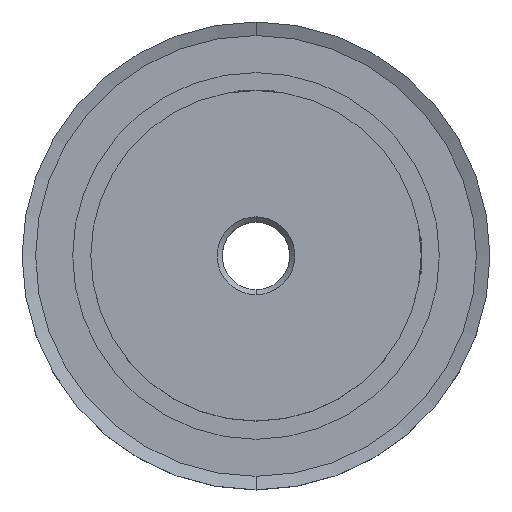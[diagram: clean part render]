
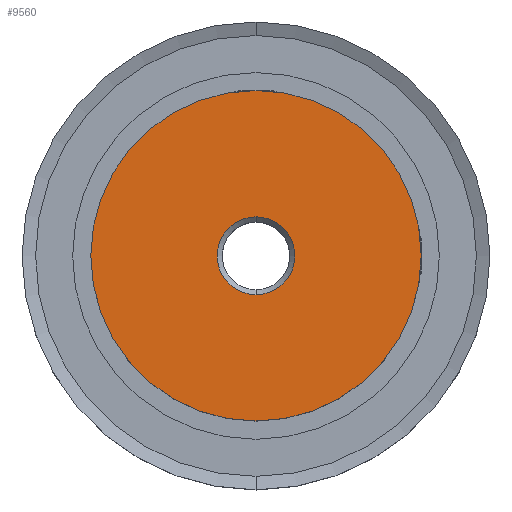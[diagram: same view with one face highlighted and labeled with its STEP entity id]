
A CAD part, top view. The second image highlights one B-rep face of the part: STEP entity #9560.
In plain terms, the highlighted planar face has unit normal (0, 0, 1).
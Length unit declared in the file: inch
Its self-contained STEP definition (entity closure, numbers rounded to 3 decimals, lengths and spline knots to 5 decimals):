
#1=CARTESIAN_POINT('',(0.,0.,0.32813));
#2=DIRECTION('',(0.,0.,1.));
#3=DIRECTION('',(0.,1.,0.));
#4=AXIS2_PLACEMENT_3D('',#1,#2,#3);
#6=CARTESIAN_POINT('',(0.,0.,0.32813));
#7=DIRECTION('',(0.,0.,-1.));
#8=DIRECTION('',(0.,1.,0.));
#9=AXIS2_PLACEMENT_3D('',#6,#7,#8);
#16=CARTESIAN_POINT('',(0.,0.,0.32813));
#17=DIRECTION('',(0.,0.,-1.));
#18=DIRECTION('',(0.,1.,0.));
#19=AXIS2_PLACEMENT_3D('',#16,#17,#18);
#7116=CARTESIAN_POINT('',(0.,0.,0.32813));
#7117=DIRECTION('',(0.,0.,1.));
#7118=DIRECTION('',(0.,1.,0.));
#7119=AXIS2_PLACEMENT_3D('',#7116,#7117,#7118);
#7431=CARTESIAN_POINT('',(0.,0.611,0.32813));
#7432=CARTESIAN_POINT('',(0.,-0.611,0.32813));
#7433=VERTEX_POINT('',#7431);
#7434=VERTEX_POINT('',#7432);
#8695=CARTESIAN_POINT('',(0.,0.14375,0.32813));
#8696=CARTESIAN_POINT('',(0.,-0.14375,0.32813));
#8697=VERTEX_POINT('',#8695);
#8698=VERTEX_POINT('',#8696);
#9543=CARTESIAN_POINT('',(0.,0.,0.32813));
#9544=DIRECTION('',(0.,0.,-1.));
#9545=DIRECTION('',(0.,-1.,0.));
#9546=AXIS2_PLACEMENT_3D('',#9543,#9544,#9545);
#9547=PLANE('',#9546);
#9549=ORIENTED_EDGE('',*,*,#9548,.F.);
#9551=ORIENTED_EDGE('',*,*,#9550,.T.);
#9552=EDGE_LOOP('',(#9549,#9551));
#9553=FACE_OUTER_BOUND('',#9552,.F.);
#9555=ORIENTED_EDGE('',*,*,#9554,.F.);
#9557=ORIENTED_EDGE('',*,*,#9556,.T.);
#9558=EDGE_LOOP('',(#9555,#9557));
#9559=FACE_BOUND('',#9558,.F.);
#9560=ADVANCED_FACE('',(#9553,#9559),#9547,.F.);
#5=CIRCLE('',#4,0.611);
#10=CIRCLE('',#9,0.611);
#20=CIRCLE('',#19,0.14375);
#7120=CIRCLE('',#7119,0.14375);
#9548=EDGE_CURVE('',#7433,#7434,#5,.T.);
#9550=EDGE_CURVE('',#7433,#7434,#10,.T.);
#9554=EDGE_CURVE('',#8697,#8698,#20,.T.);
#9556=EDGE_CURVE('',#8697,#8698,#7120,.T.);
